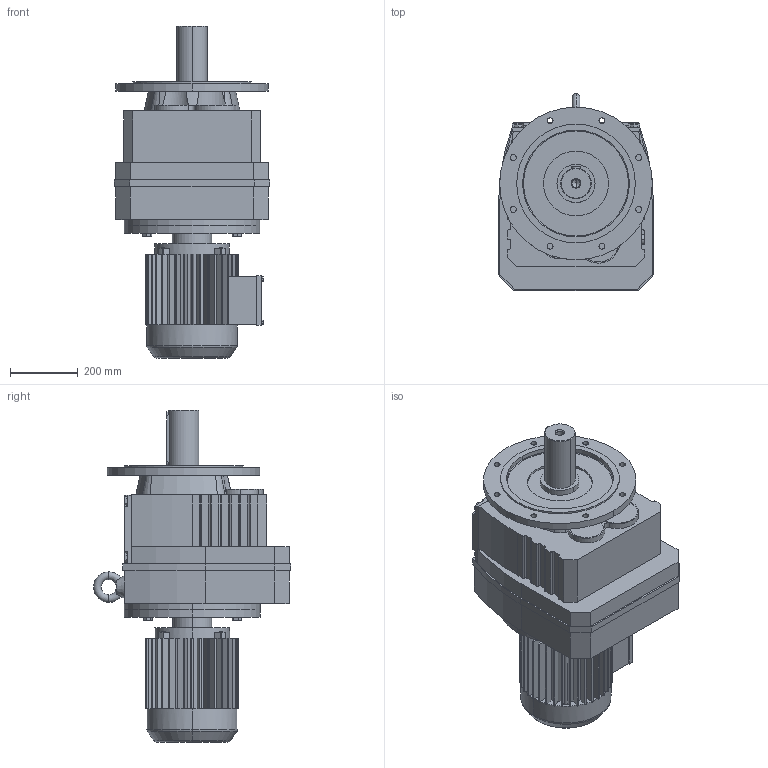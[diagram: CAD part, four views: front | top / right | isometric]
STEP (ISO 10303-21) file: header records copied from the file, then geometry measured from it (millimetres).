
FILE_DESCRIPTION(('Open CASCADE Model'),'2;1');
FILE_NAME('Open CASCADE Shape Model','2021-07-14T10:51:28',('Author'),( 'Open CASCADE'),'Open CASCADE STEP processor 6.3','Open CASCADE 6.3' ,'Unknown');
FILE_SCHEMA(('AUTOMOTIVE_DESIGN_CC2 { 1 2 10303 214 -1 1 5 4 }'));
Length unit declared in the file: millimetre
Products named in the file (3): 1_RF137-Y132S-450; RF37‵167_137_450.step; 萇儂_400_Y132S.step
Assembly tree (2 placements, depth 2):
  1_RF137-Y132S-450
    RF37‵167_137_450.step
    萇儂_400_Y132S.step
Bounding box: 458 x 581 x 979 mm (x, y, z)
Volume: 91411952.4 mm3; surface area: 2462081.7 mm2
Topology: 2 solids, 2 shells, 741 faces, 1957 edges, 1266 vertices
Faces by surface type: plane 512, cylinder 197, cone 20, torus 12
Entity records: 52307 total; most frequent: CARTESIAN_POINT 14996, DIRECTION 6490, ORIENTED_EDGE 3910, PCURVE 3910, DEFINITIONAL_REPRESENTATION 3910, LINE 3516, VECTOR 3516, EDGE_CURVE 1955
